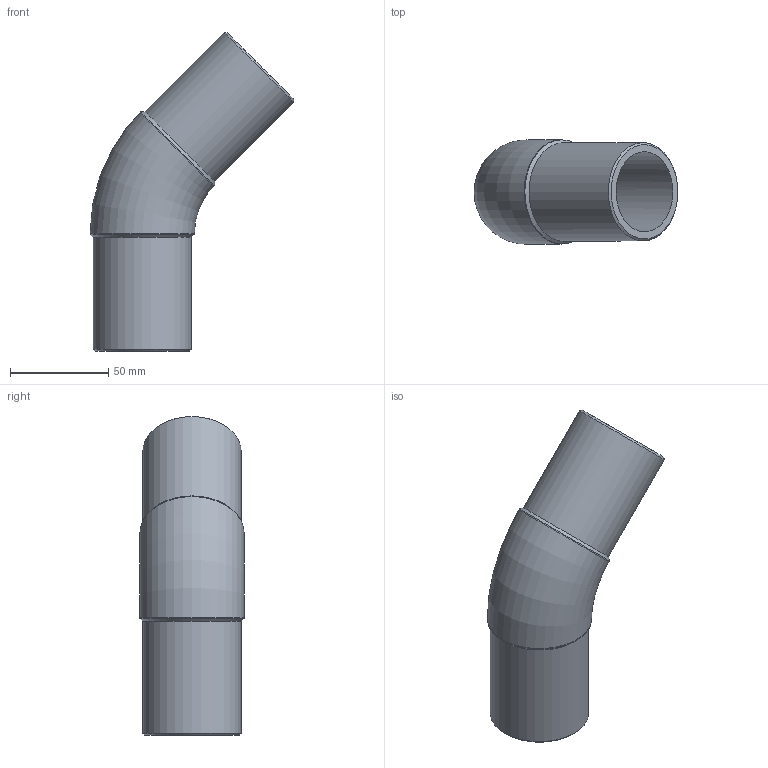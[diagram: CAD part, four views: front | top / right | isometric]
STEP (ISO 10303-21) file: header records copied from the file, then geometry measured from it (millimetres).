
FILE_DESCRIPTION(/* description */ ('Unknown'),/* implementation_level */ '2;1');
FILE_NAME(/* name */ 'G4P050C',/* time_stamp */ '2022-01-19T09:18:11+01:00',/* author */ ('Unknown'),/* organization */ ('Unknown'),/* preprocessor_version */ 'ST-DEVELOPER v18.1',/* originating_system */ 'Solid Edge',/* authorisation */ 'Unknown');
FILE_SCHEMA (('AUTOMOTIVE_DESIGN {1 0 10303 214 3 1 1}'));
Length unit declared in the file: millimetre
Products named in the file (1): G4P050C
Bounding box: 103.57 x 53 x 162.07 mm (x, y, z)
Volume: 123524.1 mm3; surface area: 49523.5 mm2
Topology: 1 solids, 1 shells, 14 faces, 34 edges, 22 vertices
Faces by surface type: cylinder 6, cone 4, plane 2, torus 2
Full cylindrical faces by diameter (mm): 40.8 x2, 50 x2, 53 x2
Entity records: 368 total; most frequent: CARTESIAN_POINT 68, DIRECTION 60, ORIENTED_EDGE 38, AXIS2_PLACEMENT_3D 30, EDGE_LOOP 27, FACE_BOUND 27, EDGE_CURVE 19, VERTEX_POINT 18
